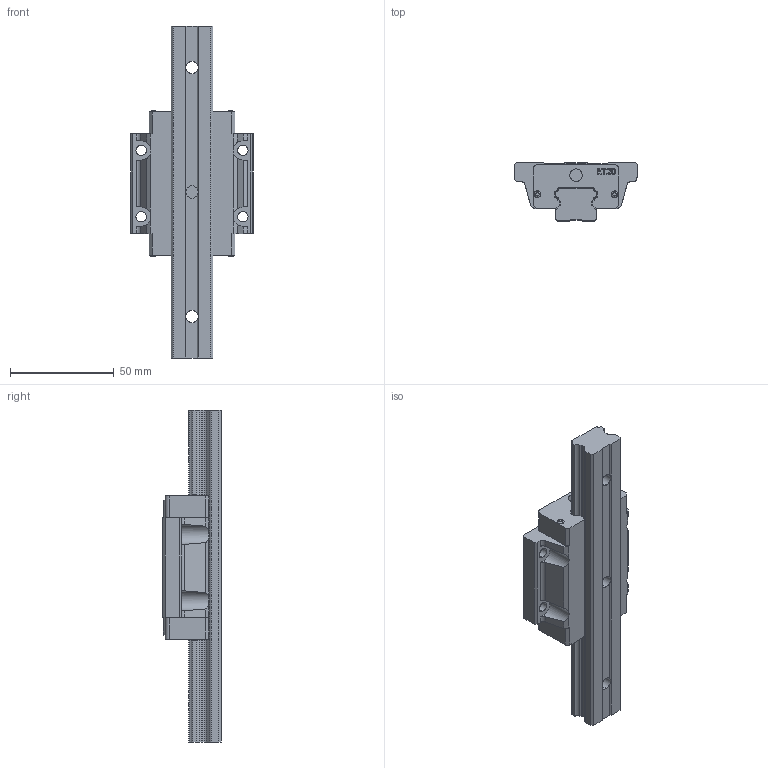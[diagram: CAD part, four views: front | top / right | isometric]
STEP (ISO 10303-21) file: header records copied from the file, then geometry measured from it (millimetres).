
FILE_DESCRIPTION (( 'STEP AP214' ), '1' );
FILE_NAME ('7.1067 Lineaarikelkka ETW20CA.STEP', '2026-03-12T13:19:27', ( '' ), ( '' ), 'SwSTEP 2.0', 'SolidWorks 2025', '' );
FILE_SCHEMA (( 'AUTOMOTIVE_DESIGN' ));
Length unit declared in the file: millimetre
Products named in the file (3): ETW20CA_BLOCK; ET20_RAIL; 7.1067 Lineaarikelkka ETW20CA
Assembly tree (2 placements, depth 2):
  7.1067 Lineaarikelkka ETW20CA
    ETW20CA_BLOCK
    ET20_RAIL
Bounding box: 59 x 28 x 160 mm (x, y, z)
Volume: 100808.6 mm3; surface area: 27705.8 mm2
Topology: 2 solids, 2 shells, 353 faces, 1022 edges, 692 vertices
Faces by surface type: plane 198, cylinder 106, bspline 33, torus 8, cone 8
Entity records: 18817 total; most frequent: CARTESIAN_POINT 5775, ORIENTED_EDGE 2044, DIRECTION 1687, EDGE_CURVE 1022, VERTEX_POINT 692, VECTOR 625, LINE 625, AXIS2_PLACEMENT_3D 531
